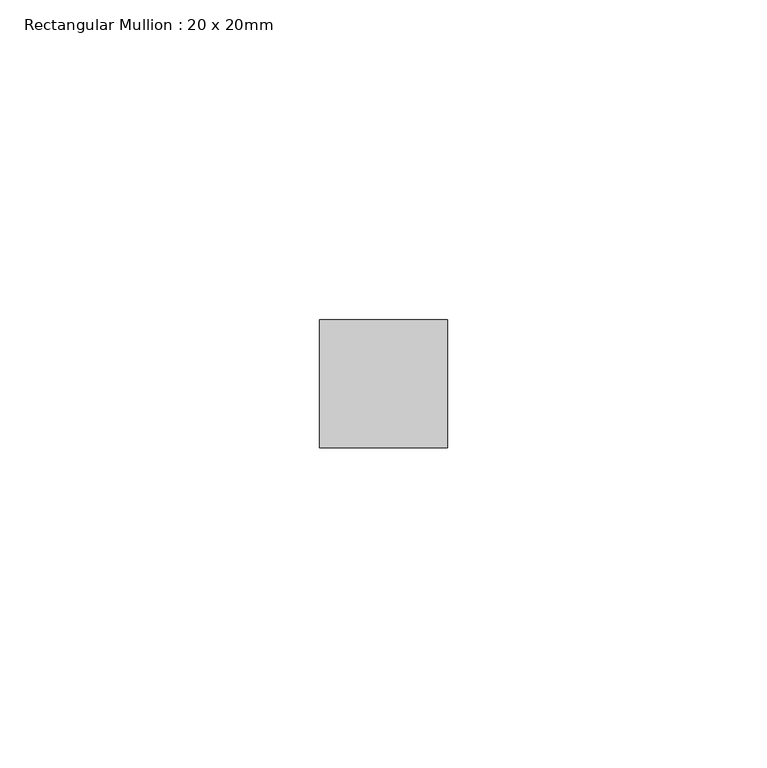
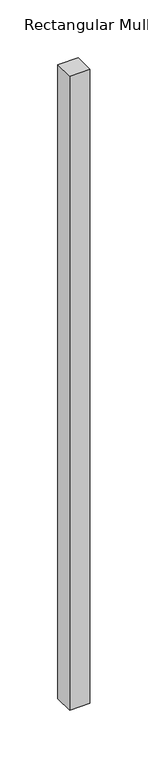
"""IFC4 building model written with IfcOpenShell, lengths in millimetres: member geometry, Rectangular Mullion : 20 x 20mm."""

from ifc_helpers import new_model, si_unit, frame, origin, place, context, project, spatial, polyline, outline, extrude, source, transform, mapped, element, save


def rectangular_mullion_20_x_20mm_65097463(model_context):
    return source(origin(), model_context, "Body", "SweptSolid", [
        extrude(outline(polyline([(0.0, 10.0), (0.0, -10.0), (-20.0, -10.0), (-20.0, 10.0), (0.0, 10.0)])), frame((0.0, 0.0, -667.540973), z_axis=(0.0, 0.0, 1.0), x_axis=(1.0, 0.0, 0.0)), (0.0, 0.0, 1.0), 667.540973),
    ])


if __name__ == "__main__":
    model = new_model("IFC4")
    model_context = context("Model", 3, world=origin())
    ifc_project = project(units=[si_unit("LENGTHUNIT", "METRE", prefix="MILLI")], contexts=[model_context])
    site = spatial("IfcSite", under=ifc_project)
    building = spatial("IfcBuilding", under=site)
    placement = place(None, origin())
    rectangular_mullion_20_x_20mm_shape = rectangular_mullion_20_x_20mm_65097463(model_context)
    element("IfcMember", 1, ObjectType="Rectangular Mullion : 20 x 20mm", at=placement, inside=building, context=model_context, shape_type="MappedRepresentation", body=[
        mapped(rectangular_mullion_20_x_20mm_shape, transform((0.0, 0.0, 0.0), x_axis=(1.0, 0.0, 0.0), y_axis=(0.0, 1.0, 0.0), z_axis=(0.0, 0.0, 1.0))),
    ])
    save(model, "model.ifc")
